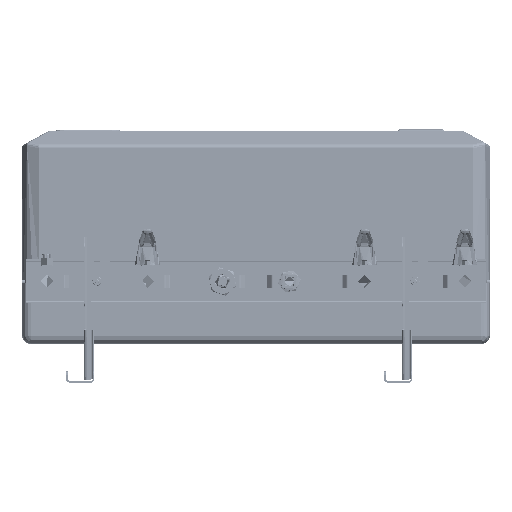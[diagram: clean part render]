
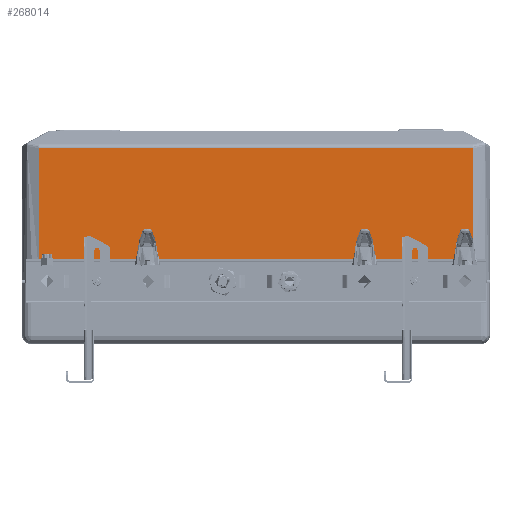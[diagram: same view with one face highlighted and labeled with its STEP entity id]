
A CAD part, front view. The second image highlights one B-rep face of the part: STEP entity #268014.
In plain terms, the highlighted planar face has unit normal (0, -1, 0).
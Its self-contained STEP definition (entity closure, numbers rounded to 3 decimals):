
#25445=CIRCLE('',#295485,17.5);
#25446=CIRCLE('',#295486,17.5);
#25447=CIRCLE('',#295487,17.5);
#25448=CIRCLE('',#295488,17.5);
#25449=CIRCLE('',#295489,17.5);
#25450=CIRCLE('',#295490,17.5);
#52366=FACE_OUTER_BOUND('',#70578,.T.);
#70578=EDGE_LOOP('',(#235792,#235793,#235794,#235795,#235796,#235797,#235798,
#235799,#235800,#235801,#235802,#235803,#235804,#235805));
#87350=LINE('',#666088,#104161);
#87351=LINE('',#666107,#104162);
#87353=LINE('',#666140,#104164);
#87354=LINE('',#666142,#104165);
#87355=LINE('',#666146,#104166);
#87356=LINE('',#666150,#104167);
#87357=LINE('',#666154,#104168);
#87358=LINE('',#666158,#104169);
#104161=VECTOR('',#363552,145.174);
#104162=VECTOR('',#363557,145.174);
#104164=VECTOR('',#363561,85.229);
#104165=VECTOR('',#363564,520.);
#104166=VECTOR('',#363567,85.229);
#104167=VECTOR('',#363570,55.229);
#104168=VECTOR('',#363573,45.229);
#104169=VECTOR('',#363576,55.229);
#127497=VERTEX_POINT('',#666043);
#127501=VERTEX_POINT('',#666074);
#127504=VERTEX_POINT('',#666093);
#127505=VERTEX_POINT('',#666106);
#127508=VERTEX_POINT('',#666138);
#127509=VERTEX_POINT('',#666139);
#127510=VERTEX_POINT('',#666143);
#127511=VERTEX_POINT('',#666145);
#127512=VERTEX_POINT('',#666147);
#127513=VERTEX_POINT('',#666149);
#127514=VERTEX_POINT('',#666151);
#127515=VERTEX_POINT('',#666153);
#127516=VERTEX_POINT('',#666155);
#127517=VERTEX_POINT('',#666157);
#164031=EDGE_CURVE('',#127497,#127501,#87350,.T.);
#164034=EDGE_CURVE('',#127505,#127504,#87351,.T.);
#164038=EDGE_CURVE('',#127508,#127509,#87353,.T.);
#164039=EDGE_CURVE('',#127497,#127509,#25445,.T.);
#164040=EDGE_CURVE('',#127501,#127505,#87354,.T.);
#164041=EDGE_CURVE('',#127510,#127504,#25446,.T.);
#164042=EDGE_CURVE('',#127510,#127511,#87355,.T.);
#164043=EDGE_CURVE('',#127512,#127511,#25447,.T.);
#164044=EDGE_CURVE('',#127512,#127513,#87356,.T.);
#164045=EDGE_CURVE('',#127514,#127513,#25448,.T.);
#164046=EDGE_CURVE('',#127514,#127515,#87357,.T.);
#164047=EDGE_CURVE('',#127516,#127515,#25449,.T.);
#164048=EDGE_CURVE('',#127516,#127517,#87358,.T.);
#164049=EDGE_CURVE('',#127508,#127517,#25450,.T.);
#235792=ORIENTED_EDGE('',*,*,#164038,.T.);
#235793=ORIENTED_EDGE('',*,*,#164039,.F.);
#235794=ORIENTED_EDGE('',*,*,#164031,.T.);
#235795=ORIENTED_EDGE('',*,*,#164040,.T.);
#235796=ORIENTED_EDGE('',*,*,#164034,.T.);
#235797=ORIENTED_EDGE('',*,*,#164041,.F.);
#235798=ORIENTED_EDGE('',*,*,#164042,.T.);
#235799=ORIENTED_EDGE('',*,*,#164043,.F.);
#235800=ORIENTED_EDGE('',*,*,#164044,.T.);
#235801=ORIENTED_EDGE('',*,*,#164045,.F.);
#235802=ORIENTED_EDGE('',*,*,#164046,.T.);
#235803=ORIENTED_EDGE('',*,*,#164047,.F.);
#235804=ORIENTED_EDGE('',*,*,#164048,.T.);
#235805=ORIENTED_EDGE('',*,*,#164049,.F.);
#253389=PLANE('',#295484);
#268014=ADVANCED_FACE('',(#52366),#253389,.F.);
#295484=AXIS2_PLACEMENT_3D('',#666137,#363559,#363560);
#295485=AXIS2_PLACEMENT_3D('',#666141,#363562,#363563);
#295486=AXIS2_PLACEMENT_3D('',#666144,#363565,#363566);
#295487=AXIS2_PLACEMENT_3D('',#666148,#363568,#363569);
#295488=AXIS2_PLACEMENT_3D('',#666152,#363571,#363572);
#295489=AXIS2_PLACEMENT_3D('',#666156,#363574,#363575);
#295490=AXIS2_PLACEMENT_3D('',#666159,#363577,#363578);
#363552=DIRECTION('',(0.,0.,1.));
#363557=DIRECTION('',(0.,0.,-1.));
#363559=DIRECTION('center_axis',(0.,1.,0.));
#363560=DIRECTION('ref_axis',(-1.,0.,0.));
#363561=DIRECTION('',(1.,0.,0.));
#363562=DIRECTION('center_axis',(0.,-1.,0.));
#363563=DIRECTION('ref_axis',(1.,0.,0.));
#363564=DIRECTION('',(-1.,0.,0.));
#363565=DIRECTION('center_axis',(0.,-1.,0.));
#363566=DIRECTION('ref_axis',(1.,0.,0.));
#363567=DIRECTION('',(1.,0.,0.));
#363568=DIRECTION('center_axis',(0.,-1.,0.));
#363569=DIRECTION('ref_axis',(1.,0.,0.));
#363570=DIRECTION('',(1.,0.,0.));
#363571=DIRECTION('center_axis',(0.,-1.,0.));
#363572=DIRECTION('ref_axis',(1.,0.,0.));
#363573=DIRECTION('',(1.,0.,0.));
#363574=DIRECTION('center_axis',(0.,-1.,0.));
#363575=DIRECTION('ref_axis',(1.,0.,0.));
#363576=DIRECTION('',(1.,0.,0.));
#363577=DIRECTION('center_axis',(0.,-1.,0.));
#363578=DIRECTION('ref_axis',(1.,0.,0.));
#666043=CARTESIAN_POINT('',(260.,0.,14.361));
#666074=CARTESIAN_POINT('',(260.,0.,159.536));
#666088=CARTESIAN_POINT('',(260.,0.,180.));
#666093=CARTESIAN_POINT('',(-260.,0.,14.361));
#666106=CARTESIAN_POINT('',(-260.,0.,159.536));
#666107=CARTESIAN_POINT('',(-260.,0.,180.));
#666137=CARTESIAN_POINT('Origin',(-280.,0.,180.));
#666138=CARTESIAN_POINT('',(147.385,0.,2.));
#666139=CARTESIAN_POINT('',(232.615,0.,2.));
#666140=CARTESIAN_POINT('',(-260.,0.,2.));
#666141=CARTESIAN_POINT('Origin',(250.,0.,0.));
#666142=CARTESIAN_POINT('',(-260.,0.,159.536));
#666143=CARTESIAN_POINT('',(-232.615,0.,2.));
#666144=CARTESIAN_POINT('Origin',(-250.,0.,0.));
#666145=CARTESIAN_POINT('',(-147.385,0.,2.));
#666146=CARTESIAN_POINT('',(-260.,0.,2.));
#666147=CARTESIAN_POINT('',(-112.615,0.,2.));
#666148=CARTESIAN_POINT('Origin',(-130.,0.,0.));
#666149=CARTESIAN_POINT('',(-57.385,0.,2.));
#666150=CARTESIAN_POINT('',(-260.,0.,2.));
#666151=CARTESIAN_POINT('',(-22.615,0.,2.));
#666152=CARTESIAN_POINT('Origin',(-40.,0.,0.));
#666153=CARTESIAN_POINT('',(22.615,0.,2.));
#666154=CARTESIAN_POINT('',(-260.,0.,2.));
#666155=CARTESIAN_POINT('',(57.385,0.,2.));
#666156=CARTESIAN_POINT('Origin',(40.,0.,0.));
#666157=CARTESIAN_POINT('',(112.615,0.,2.));
#666158=CARTESIAN_POINT('',(-260.,0.,2.));
#666159=CARTESIAN_POINT('Origin',(130.,0.,0.));
